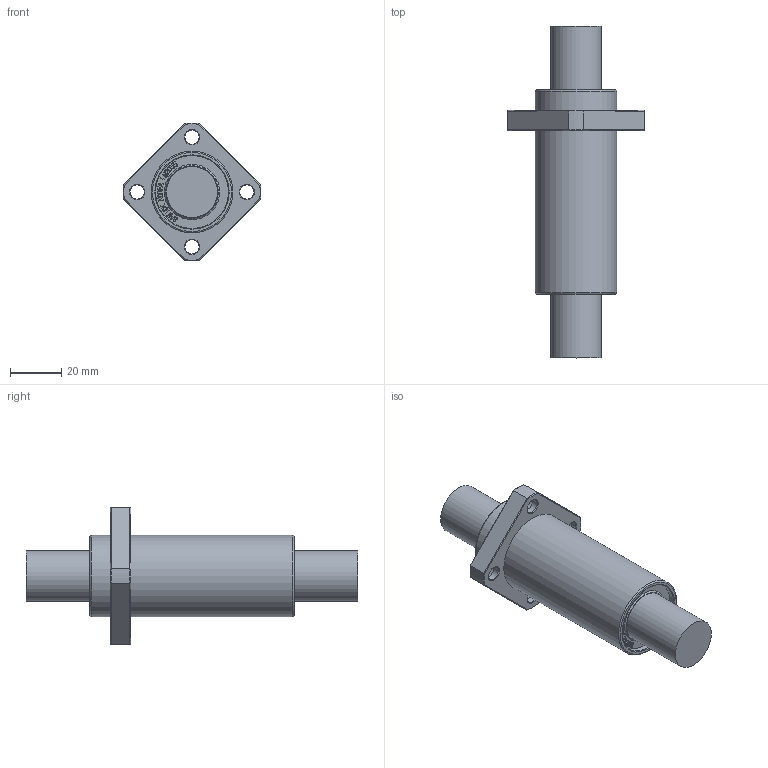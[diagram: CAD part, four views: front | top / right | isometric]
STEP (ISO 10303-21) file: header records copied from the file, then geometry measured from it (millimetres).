
FILE_DESCRIPTION(/* description */ (''),/* implementation_level */ '2;1');
FILE_NAME(/* name */ 'W:\(01) 2024년 홈페이지 CAD파일 최신화\LMEKP_L\IPT\LMEKP20LUU.stp',/* time_stamp */ '2025-01-25T13:04:05+09:00',/* author */ ('서우현'),/* organization */ (''),/* preprocessor_version */ 'ST-DEVELOPER v17.2',/* originating_system */ 'Autodesk Inventor 2019',/* authorisation */ '');
FILE_SCHEMA (('AUTOMOTIVE_DESIGN { 1 0 10303 214 3 1 1 }'));
Length unit declared in the file: millimetre
Products named in the file (1): LM5
Bounding box: 53.97 x 130 x 53.97 mm (x, y, z)
Volume: 84252.1 mm3; surface area: 16273.6 mm2
Topology: 1 solids, 1 shells, 872 faces, 2442 edges, 1628 vertices
Faces by surface type: bspline 592, plane 240, cone 20, cylinder 18, torus 2
Full cylindrical faces by diameter (mm): 5.5 x4, 9.5 x4, 20 x2, 28.5 x2, 32 x2
Entity records: 29900 total; most frequent: CARTESIAN_POINT 11035, ORIENTED_EDGE 4884, EDGE_CURVE 2442, DIRECTION 1894, VERTEX_POINT 1628, B_SPLINE_CURVE_WITH_KNOTS 1184, LINE 1152, VECTOR 1152
